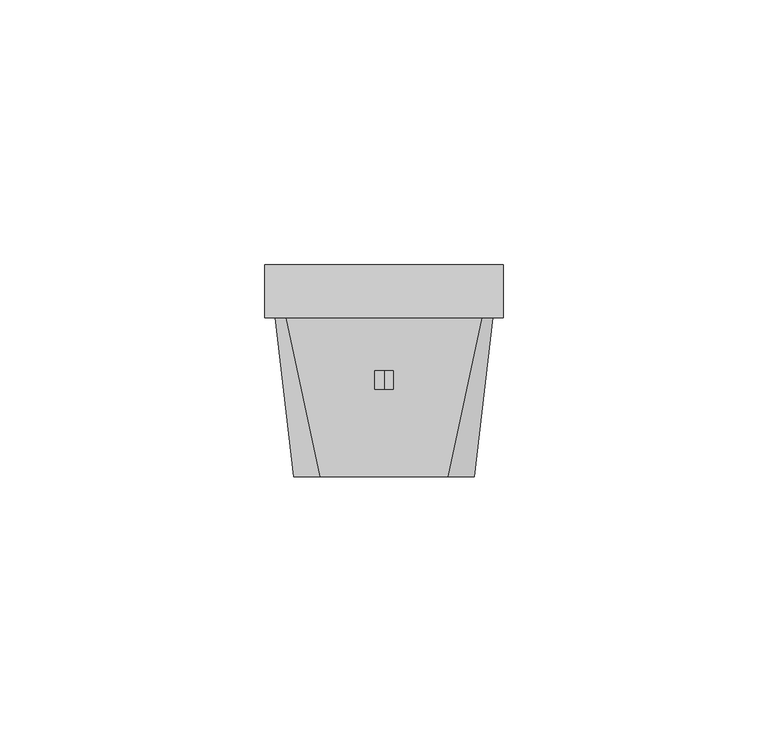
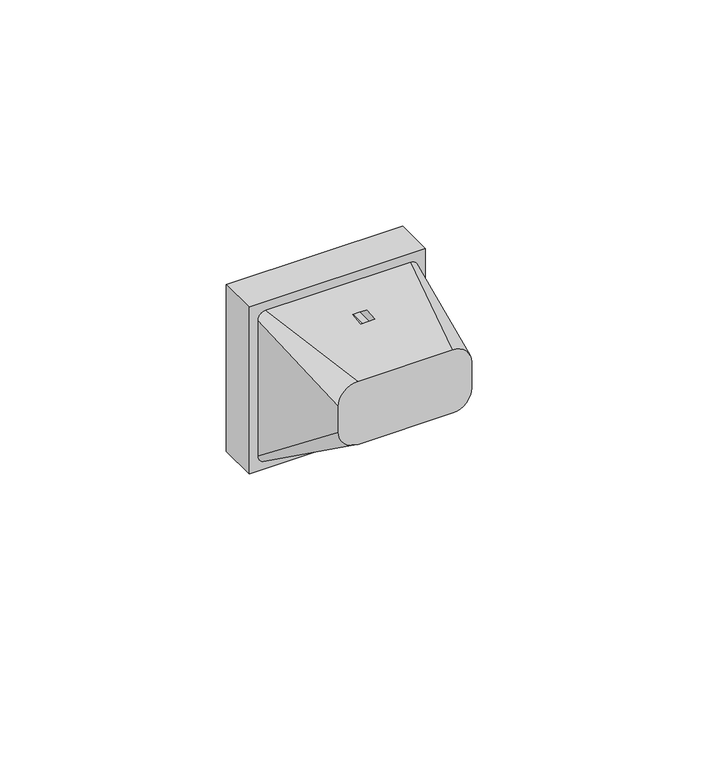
"""IFC4 building model written with IfcOpenShell, lengths in millimetres: proxy geometry, IEK_Skandy_Механизм розетки 230В : USB A+A_SK-R15B."""

from ifc_helpers import new_model, si_unit, frame, origin, place, context, project, spatial, polyline, circle_curve, outline, extrude, faceted_brep, source, transform, mapped, element, save
from ifc_brep_helpers import plane_surface, revolved_surface, spline_surface, advanced_brep


def electrical_fixtures_4d005b9e(model_context):
    return source(origin(), model_context, "Body", "SolidModel", [
        extrude(outline(polyline([(14.9097787, 8.332744), (16.0629243, 8.332744), (16.0629243, 1.9), (14.9097787, 1.9), (14.9097787, 8.332744)])), frame((0.0, 0.0, -0.6072496), z_axis=(0.0, 0.0, 1.0), x_axis=(1.0, 0.0, 0.0)), (0.0, 0.0, 1.0), 0.9632194),
        extrude(outline(polyline([(12.3817288, 8.332744), (13.5348744, 8.332744), (13.5348744, 1.9), (12.3817288, 1.9), (12.3817288, 8.332744)])), frame((0.0, 0.0, -0.6072496), z_axis=(0.0, 0.0, 1.0), x_axis=(1.0, 0.0, 0.0)), (0.0, 0.0, 1.0), 0.9632194),
        extrude(outline(polyline([(9.9097787, 8.332744), (11.0629243, 8.332744), (11.0629243, 1.9), (9.9097787, 1.9), (9.9097787, 8.332744)])), frame((0.0, 0.0, -0.6072496), z_axis=(0.0, 0.0, 1.0), x_axis=(1.0, 0.0, 0.0)), (0.0, 0.0, 1.0), 0.9632194),
        extrude(outline(polyline([(7.3817288, 8.332744), (8.5348744, 8.332744), (8.5348744, 1.9), (7.3817288, 1.9), (7.3817288, 8.332744)])), frame((0.0, 0.0, -0.6072496), z_axis=(0.0, 0.0, 1.0), x_axis=(1.0, 0.0, 0.0)), (0.0, 0.0, 1.0), 0.9632194),
        extrude(outline(polyline([(17.0, 1.865818), (6.205143, 1.865818), (6.205143, 8.6493558), (17.0, 8.6493558), (17.0, 1.865818)])), frame((0.0, 0.0, -0.9635751), z_axis=(0.0, 0.0, 1.0), x_axis=(1.0, 0.0, 0.0)), (0.0, 0.0, 1.0), 1.1632949),
        extrude(outline(polyline([(-16.0629243, 8.332744), (-14.9097787, 8.332744), (-14.9097787, 1.9), (-16.0629243, 1.9), (-16.0629243, 8.332744)])), frame((0.0, 0.0, -0.6072496), z_axis=(0.0, 0.0, 1.0), x_axis=(1.0, 0.0, 0.0)), (0.0, 0.0, 1.0), 0.9632194),
        extrude(outline(polyline([(-13.5348744, 8.332744), (-12.3817288, 8.332744), (-12.3817288, 1.9), (-13.5348744, 1.9), (-13.5348744, 8.332744)])), frame((0.0, 0.0, -0.6072496), z_axis=(0.0, 0.0, 1.0), x_axis=(1.0, 0.0, 0.0)), (0.0, 0.0, 1.0), 0.9632194),
        extrude(outline(polyline([(-11.0629243, 8.332744), (-9.9097787, 8.332744), (-9.9097787, 1.9), (-11.0629243, 1.9), (-11.0629243, 8.332744)])), frame((0.0, 0.0, -0.6072496), z_axis=(0.0, 0.0, 1.0), x_axis=(1.0, 0.0, 0.0)), (0.0, 0.0, 1.0), 0.9632194),
        extrude(outline(polyline([(-8.5348744, 8.332744), (-7.3817288, 8.332744), (-7.3817288, 1.9), (-8.5348744, 1.9), (-8.5348744, 8.332744)])), frame((0.0, 0.0, -0.6072496), z_axis=(0.0, 0.0, 1.0), x_axis=(1.0, 0.0, 0.0)), (0.0, 0.0, 1.0), 0.9632194),
        extrude(outline(polyline([(-6.205143, 1.865818), (-17.5, 1.865818), (-17.5, 8.6493558), (-6.205143, 8.6493558), (-6.205143, 1.865818)])), frame((0.0, 0.0, -0.9635751), z_axis=(0.0, 0.0, 1.0), x_axis=(1.0, 0.0, 0.0)), (0.0, 0.0, 1.0), 1.1632949),
        faceted_brep([(-22.5, 10.0, 22.5), (22.5, 10.0, 22.5), (22.5, 10.0, -22.5), (-22.5, 10.0, -22.5), (18.3514689, 10.0, -3.1615677), (18.3514689, 10.0, 2.8384323), (4.7443645, 10.0, 2.8384323), (4.7443645, 10.0, -3.1615677), (-18.243706, 10.0, 2.8384323), (-18.243706, 10.0, -3.1615677), (-4.7443645, 10.0, -3.1615677), (-4.7443645, 10.0, 2.8384323), (-22.5, 0.0, 22.5), (-22.5, 0.0, -22.5), (22.5, 0.0, -22.5), (22.5, 0.0, 22.5), (18.3514689, 1.865818, 2.8384323), (18.3514689, 1.865818, -3.1615677), (4.7443645, 1.865818, -3.1615677), (4.7443645, 1.865818, 2.8384323), (-18.243706, 1.865818, 2.8384323), (-4.7443645, 1.865818, 2.8384323), (-4.7443645, 1.865818, -3.1615677), (-18.243706, 1.865818, -3.1615677)], [[[0, 1, 2, 3], [4, 5, 6, 7], [8, 9, 10, 11]], [[12, 13, 14, 15]], [[0, 3, 13, 12]], [[3, 2, 14, 13]], [[2, 1, 15, 14]], [[1, 0, 12, 15]], [[16, 17, 18, 19]], [[17, 16, 5, 4]], [[18, 17, 4, 7]], [[19, 18, 7, 6]], [[16, 19, 6, 5]], [[20, 21, 22, 23]], [[20, 23, 9, 8]], [[23, 22, 10, 9]], [[22, 21, 11, 10]], [[21, 20, 8, 11]]]),
        advanced_brep(
        [(-12.0, -30.0, 17.0), (-17.0, -30.0, 12.0), (-17.0, -30.0, 5.0), (-12.0, -30.0, 0.0), (12.0, -30.0, 0.0), (17.0, -30.0, 5.0), (17.0, -30.0, 12.0), (12.0, -30.0, 17.0), (-18.5, 0.0, 20.5), (18.5, 0.0, 20.5), (20.5, 0.0, 18.5), (20.5, 0.0, -18.5), (18.5, 0.0, -20.5), (-18.5, 0.0, -20.5), (-20.5, 0.0, -18.5), (-20.5, 0.0, 18.5), (6.3904783, 0.0, 0.0), (11.8753617, 0.0, 0.0), (-3.0105286, 0.0, 0.0), (3.0105286, 0.0, 0.0), (-11.8753617, 0.0, 0.0), (-6.3904783, 0.0, 0.0), (1.7917908, 0.0, -19.3280847), (1.7917908, 0.0, -16.8280847), (0.0, 0.0, -16.8280847), (-1.7917908, 0.0, -16.8280847), (-1.7917908, 0.0, -19.3280847), (0.0, 0.0, -19.3280847), (1.7917908, 0.0, 19.3280847), (0.0, 0.0, 19.3280847), (-1.7917908, 0.0, 19.3280847), (-1.7917908, 0.0, 16.8280847), (0.0, 0.0, 16.8280847), (1.7917908, 0.0, 16.8280847), (1.7917908, -13.4962918, 18.9254326), (-1.7917908, -13.4962918, 18.9254326), (-1.7917908, -10.0449886, 19.3280847), (0.0, -10.0449886, 19.3280847), (1.7917908, -10.0449886, 19.3280847), (1.7917908, -5.3735346, -16.8280847), (1.7917908, -1.7149981, -19.3280847), (0.0, -1.7149981, -19.3280847), (-1.7917908, -1.7149981, -19.3280847), (-1.7917908, -5.3735346, -16.8280847), (0.0, -5.3735346, -16.8280847), (6.3904783, -13.4962918, 0.0), (11.8753617, -13.4962918, 0.0), (-3.0105286, -13.4962918, 0.0), (3.0105286, -13.4962918, 0.0), (-11.8753617, -13.4962918, 0.0), (-6.3904783, -13.4962918, 0.0), (1.7917908, -13.4962918, 16.8280847), (0.0, -13.4962918, 16.8280847), (-1.7917908, -13.4962918, 16.8280847)],
        [
            (0, 1, circle_curve(frame((-12.0, -30.0, 12.0), z_axis=(0.0, -1.0, 0.0), x_axis=(1.0, 0.0, 0.0)), 5.0)),
            (1, 2),
            (2, 3, circle_curve(frame((-12.0, -30.0, 5.0), z_axis=(0.0, -1.0, 0.0), x_axis=(1.0, 0.0, 0.0)), 5.0)),
            (3, 4),
            (4, 5, circle_curve(frame((12.0, -30.0, 5.0), z_axis=(0.0, -1.0, 0.0), x_axis=(1.0, 0.0, 0.0)), 5.0)),
            (5, 6),
            (6, 7, circle_curve(frame((12.0, -30.0, 12.0), z_axis=(0.0, -1.0, 0.0), x_axis=(1.0, 0.0, 0.0)), 5.0)),
            (7, 0),
            (8, 9),
            (9, 10, circle_curve(frame((18.5, 0.0, 18.5), z_axis=(0.0, 1.0, 0.0), x_axis=(1.0, 0.0, 0.0)), 2.0)),
            (10, 11),
            (11, 12, circle_curve(frame((18.5, 0.0, -18.5), z_axis=(0.0, 1.0, 0.0), x_axis=(1.0, 0.0, 0.0)), 2.0)),
            (12, 13),
            (13, 14, circle_curve(frame((-18.5, 0.0, -18.5), z_axis=(0.0, 1.0, 0.0), x_axis=(1.0, 0.0, 0.0)), 2.0)),
            (14, 15),
            (15, 8, circle_curve(frame((-18.5, 0.0, 18.5), z_axis=(0.0, 1.0, 0.0), x_axis=(1.0, 0.0, 0.0)), 2.0)),
            (16, 17, circle_curve(frame((9.13292, 0.0, 0.0), z_axis=(0.0, -1.0, 0.0), x_axis=(1.0, 0.0, 0.0)), 2.7424417)),
            (17, 16, circle_curve(frame((9.13292, 0.0, 0.0), z_axis=(0.0, -1.0, 0.0), x_axis=(1.0, 0.0, 0.0)), 2.7424417)),
            (18, 19, circle_curve(frame((0.0, 0.0, 0.0), z_axis=(0.0, -1.0, 0.0), x_axis=(1.0, 0.0, 0.0)), 3.0105286)),
            (19, 18, circle_curve(frame((0.0, 0.0, 0.0), z_axis=(0.0, -1.0, 0.0), x_axis=(1.0, 0.0, 0.0)), 3.0105286)),
            (20, 21, circle_curve(frame((-9.13292, 0.0, 0.0), z_axis=(0.0, -1.0, 0.0), x_axis=(1.0, 0.0, 0.0)), 2.7424417)),
            (21, 20, circle_curve(frame((-9.13292, 0.0, 0.0), z_axis=(0.0, -1.0, 0.0), x_axis=(1.0, 0.0, 0.0)), 2.7424417)),
            (22, 23),
            (23, 24),
            (24, 25),
            (25, 26),
            (26, 27),
            (27, 22),
            (28, 29),
            (29, 30),
            (30, 31),
            (31, 32),
            (32, 33),
            (33, 28),
            (7, 9),
            (8, 0),
            (34, 35),
            (35, 36),
            (36, 37),
            (37, 38),
            (38, 34),
            (6, 10),
            (5, 11),
            (4, 12),
            (3, 13),
            (39, 40),
            (40, 41),
            (41, 42),
            (42, 43),
            (43, 44),
            (44, 39),
            (2, 14),
            (1, 15),
            (45, 46, circle_curve(frame((9.13292, -13.4962918, 0.0), z_axis=(0.0, 1.0, 0.0), x_axis=(1.0, 0.0, 0.0)), 2.7424417)),
            (46, 45, circle_curve(frame((9.13292, -13.4962918, 0.0), z_axis=(0.0, 1.0, 0.0), x_axis=(1.0, 0.0, 0.0)), 2.7424417)),
            (47, 48, circle_curve(frame((0.0, -13.4962918, 0.0), z_axis=(0.0, 1.0, 0.0), x_axis=(1.0, 0.0, 0.0)), 3.0105286)),
            (48, 47, circle_curve(frame((0.0, -13.4962918, 0.0), z_axis=(0.0, 1.0, 0.0), x_axis=(1.0, 0.0, 0.0)), 3.0105286)),
            (49, 50, circle_curve(frame((-9.13292, -13.4962918, 0.0), z_axis=(0.0, 1.0, 0.0), x_axis=(1.0, 0.0, 0.0)), 2.7424417)),
            (50, 49, circle_curve(frame((-9.13292, -13.4962918, 0.0), z_axis=(0.0, 1.0, 0.0), x_axis=(1.0, 0.0, 0.0)), 2.7424417)),
            (51, 52),
            (52, 53),
            (53, 35),
            (34, 51),
            (46, 17),
            (16, 45),
            (48, 19),
            (18, 47),
            (50, 21),
            (20, 49),
            (28, 38),
            (37, 29),
            (36, 30),
            (53, 31),
            (52, 32),
            (51, 33),
            (22, 40),
            (39, 23),
            (44, 24),
            (43, 25),
            (42, 26),
            (41, 27),
        ],
        [
            plane_surface(frame((0.0, -30.0, 8.5), z_axis=(0.0, -1.0, 0.0), x_axis=(-1.0, 0.0, 0.0))),
            plane_surface(frame((0.0, 0.0, 0.0), z_axis=(0.0, 1.0, 0.0), x_axis=(-1.0, 0.0, 0.0))),
            plane_surface(frame((0.0, 0.0, 20.5), z_axis=(0.0, -0.11588069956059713, 0.9932631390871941), x_axis=(-1.0, 0.0, 0.0))),
            spline_surface(2, 1, [[(20.5, 0.0, 18.5), (17.0, -30.0, 12.0)], [(20.5, 0.0, 20.5), (17.0, -30.0, 17.0)], [(18.5, 0.0, 20.5), (12.0, -30.0, 17.0)]], [3, 3], [2, 2], [0.0, 1.0], [0.0, 1.0], weights=[[1.0, 1.0], [0.7071067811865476, 0.7071067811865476], [1.0, 1.0]]),
            plane_surface(frame((20.5, 0.0, 0.0), z_axis=(0.993263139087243, -0.11588069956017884, 0.0), x_axis=(0.0, 0.0, 1.0))),
            spline_surface(2, 1, [[(18.5, 0.0, -20.5), (12.0, -30.0, 0.0)], [(20.5, 0.0, -20.5), (17.0, -30.0, 0.0)], [(20.5, 0.0, -18.5), (17.0, -30.0, 5.0)]], [3, 3], [2, 2], [0.0, 1.0], [0.0, 1.0], weights=[[1.0, 1.0], [0.7071067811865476, 0.7071067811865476], [1.0, 1.0]]),
            plane_surface(frame((0.0, 0.0, -20.5), z_axis=(0.0, -0.5641905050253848, -0.8256446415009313), x_axis=(1.0, 0.0, 0.0))),
            spline_surface(2, 1, [[(-20.5, 0.0, -18.5), (-17.0, -30.0, 5.0)], [(-20.5, 0.0, -20.5), (-17.0, -30.0, 0.0)], [(-18.5, 0.0, -20.5), (-12.0, -30.0, 0.0)]], [3, 3], [2, 2], [0.0, 1.0], [0.0, 1.0], weights=[[1.0, 1.0], [0.7071067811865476, 0.7071067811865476], [1.0, 1.0]]),
            plane_surface(frame((-20.5, 0.0, 0.0), z_axis=(-0.9932631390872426, -0.11588069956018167, 0.0), x_axis=(0.0, 0.0, -1.0))),
            spline_surface(2, 1, [[(-18.5, 0.0, 20.5), (-12.0, -30.0, 17.0)], [(-20.5, 0.0, 20.5), (-17.0, -30.0, 17.0)], [(-20.5, 0.0, 18.5), (-17.0, -30.0, 12.0)]], [3, 3], [2, 2], [0.0, 1.0], [0.0, 1.0], weights=[[1.0, 1.0], [0.7071067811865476, 0.7071067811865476], [1.0, 1.0]]),
            plane_surface(frame((11.8753617, -13.4962918, 0.0), z_axis=(0.0, 1.0, 0.0), x_axis=(0.0, 0.0, 1.0))),
            revolved_surface(polyline([(11.875361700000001, -13.4962918, 0.0), (11.875361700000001, 0.0, 0.0)]), (9.13292, 0.0, 0.0), (0.0, -1.0, 0.0)),
            revolved_surface(polyline([(3.0105286, -13.4962918, 0.0), (3.0105286, 0.0, 0.0)]), (0.0, -2.0, 0.0), (0.0, -1.0, 0.0)),
            revolved_surface(polyline([(-6.3904783, -13.4962918, 0.0), (-6.3904783, 0.0, 0.0)]), (-9.13292, -2.0, 0.0), (0.0, -1.0, 0.0)),
            plane_surface(frame((1.7917908, -13.4962918, 19.3280847), z_axis=(0.0, 0.0, -1.0), x_axis=(0.0, 1.0, 0.0))),
            plane_surface(frame((0.0, -13.4962918, 19.3280847), z_axis=(0.0, 0.0, -1.0), x_axis=(0.0, 1.0, 0.0))),
            plane_surface(frame((-1.7917908, -13.4962918, 19.3280847), z_axis=(1.0, 0.0, 0.0), x_axis=(0.0, 1.0, 0.0))),
            plane_surface(frame((-1.7917908, -13.4962918, 16.8280847), z_axis=(0.0, 0.0, 1.0), x_axis=(0.0, 1.0, 0.0))),
            plane_surface(frame((0.0, -13.4962918, 16.8280847), z_axis=(0.0, 0.0, 1.0), x_axis=(0.0, 1.0, 0.0))),
            plane_surface(frame((1.7917908, -13.4962918, 16.8280847), z_axis=(-1.0, 0.0, 0.0), x_axis=(0.0, 1.0, 0.0))),
            plane_surface(frame((1.7917908, -13.4962918, -19.3280847), z_axis=(-1.0, 0.0, 0.0), x_axis=(0.0, 1.0, 0.0))),
            plane_surface(frame((1.7917908, -13.4962918, -16.8280847), z_axis=(0.0, 0.0, -1.0), x_axis=(0.0, 1.0, 0.0))),
            plane_surface(frame((0.0, -13.4962918, -16.8280847), z_axis=(0.0, 0.0, -1.0), x_axis=(0.0, 1.0, 0.0))),
            plane_surface(frame((-1.7917908, -13.4962918, -16.8280847), z_axis=(1.0, 0.0, 0.0), x_axis=(0.0, 1.0, 0.0))),
            plane_surface(frame((-1.7917908, -13.4962918, -19.3280847), z_axis=(0.0, 0.0, 1.0), x_axis=(0.0, 1.0, 0.0))),
            plane_surface(frame((0.0, -13.4962918, -19.3280847), z_axis=(0.0, 0.0, 1.0), x_axis=(0.0, 1.0, 0.0))),
        ],
        [
            (0, [[1, 2, 3, 4, 5, 6, 7, 8]]),
            (1, [[9, 10, 11, 12, 13, 14, 15, 16], [17, 18], [19, 20], [21, 22], [23, 24, 25, 26, 27, 28], [29, 30, 31, 32, 33, 34]]),
            (2, [[-8, 35, -9, 36], [37, 38, 39, 40, 41]]),
            (3, [[-7, 42, -10, -35]]),
            (4, [[-6, 43, -11, -42]]),
            (5, [[-5, 44, -12, -43]]),
            (6, [[-4, 45, -13, -44], [46, 47, 48, 49, 50, 51]]),
            (7, [[-3, 52, -14, -45]]),
            (8, [[-2, 53, -15, -52]]),
            (9, [[-1, -36, -16, -53]]),
            (10, [[54, 55]]),
            (10, [[56, 57]]),
            (10, [[58, 59]]),
            (10, [[60, 61, 62, -37, 63]]),
            (11, [[-55, 64, -17, 65]]),
            (11, [[-54, -65, -18, -64]]),
            (12, [[-57, 66, -19, 67]]),
            (12, [[-56, -67, -20, -66]]),
            (13, [[-59, 68, -21, 69]]),
            (13, [[-58, -69, -22, -68]]),
            (14, [[70, -40, 71, -29]]),
            (15, [[-71, -39, 72, -30]]),
            (16, [[73, -31, -72, -38, -62]]),
            (17, [[-61, 74, -32, -73]]),
            (18, [[-60, 75, -33, -74]]),
            (19, [[-75, -63, -41, -70, -34]]),
            (20, [[76, -46, 77, -23]]),
            (21, [[-77, -51, 78, -24]]),
            (22, [[-78, -50, 79, -25]]),
            (23, [[-79, -49, 80, -26]]),
            (24, [[-80, -48, 81, -27]]),
            (25, [[-76, -28, -81, -47]]),
        ],
    ),
    ])


if __name__ == "__main__":
    model = new_model("IFC4")
    model_context = context("Model", 3, world=origin())
    ifc_project = project(units=[si_unit("LENGTHUNIT", "METRE", prefix="MILLI")], contexts=[model_context])
    site = spatial("IfcSite", under=ifc_project)
    building = spatial("IfcBuilding", under=site)
    placement = place(None, origin())
    electrical_fixtures_shape = electrical_fixtures_4d005b9e(model_context)
    element("IfcBuildingElementProxy", 1, Name="IEK_Skandy_Механизм розетки 230В : USB A+A_SK-R15B", ObjectType="IEK_Skandy_Механизм розетки 230В : USB A+A_SK-R15B", at=placement, inside=building, context=model_context, shape_type="MappedRepresentation", body=[
        mapped(electrical_fixtures_shape, transform((0.0, 0.0, 0.0), x_axis=(1.0, 0.0, 0.0), y_axis=(0.0, 1.0, 0.0), z_axis=(0.0, 0.0, 1.0))),
    ])
    save(model, "model.ifc")
